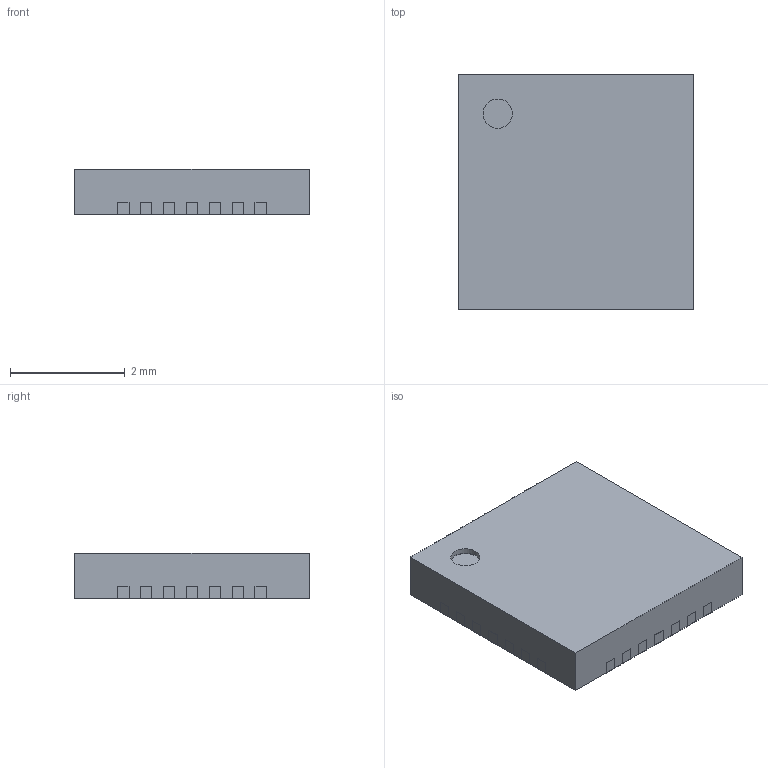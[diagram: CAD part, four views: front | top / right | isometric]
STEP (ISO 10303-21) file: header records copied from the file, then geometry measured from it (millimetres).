
FILE_DESCRIPTION(('Open CASCADE Model'),'2;1');
FILE_NAME('Open CASCADE Shape Model','2022-11-11T17:21:23',('Author'),( 'Open CASCADE'),'Open CASCADE STEP processor 6.8','Open CASCADE 6.8' ,'Unknown');
FILE_SCHEMA(('AUTOMOTIVE_DESIGN { 1 0 10303 214 1 1 1 1 }'));
Length unit declared in the file: millimetre
Products named in the file (7): QFN40P400X400X80_HS-29N.step; Open CASCADE STEP translator 6.8 24.1; Body; Open CASCADE STEP translator 6.8 24.2.1; Thermal_Shape; Pin_Shape; Open CASCADE STEP translator 6.8 24.4.1
Assembly tree (33 placements, depth 3):
  QFN40P400X400X80_HS-29N.step
    Open CASCADE STEP translator 6.8 24.1
    Body
      Open CASCADE STEP translator 6.8 24.2.1
    Thermal_Shape
    Pin_Shape  x28
      Open CASCADE STEP translator 6.8 24.4.1
Bounding box: 4.1 x 4.1 x 0.8 mm (x, y, z)
Volume: 13.4 mm3; surface area: 69 mm2
Topology: 30 solids, 31 shells, 408 faces, 815 edges, 469 vertices
Faces by surface type: plane 407, cylinder 1
Full cylindrical faces by diameter (mm): 0.512 x1
Entity records: 1122 total; most frequent: DIRECTION 190, CARTESIAN_POINT 160, ORIENTED_EDGE 117, AXIS2_PLACEMENT_3D 67, EDGE_CURVE 59, LINE 56, VECTOR 56, PRODUCT_DEFINITION_SHAPE 40
